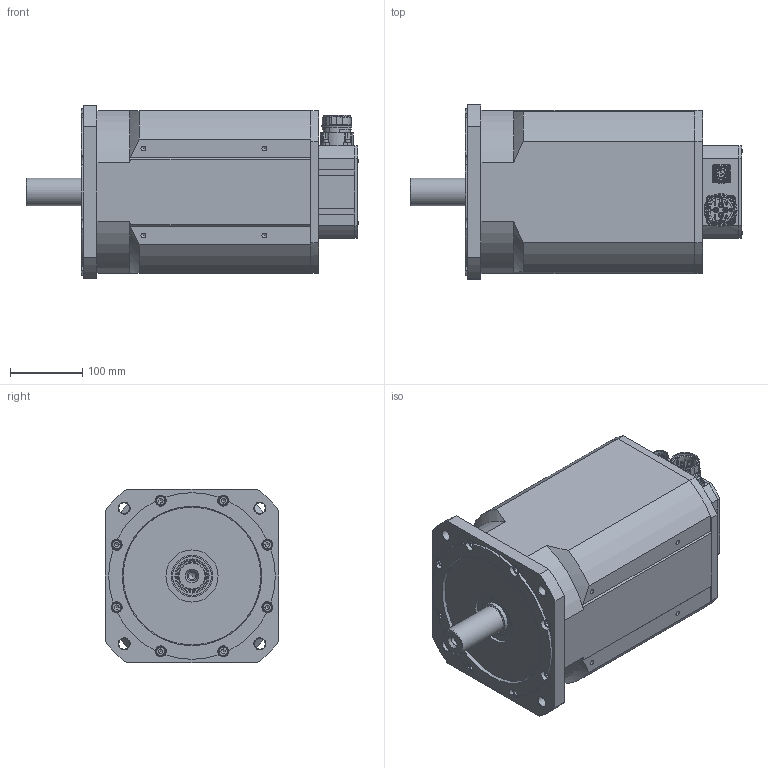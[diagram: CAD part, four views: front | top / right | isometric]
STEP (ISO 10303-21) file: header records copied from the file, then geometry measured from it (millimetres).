
FILE_DESCRIPTION(/* description */ (''),/* implementation_level */ '2;1');
FILE_NAME(/* name */ 'C:\PDF_output\T8000 00 Z_0680_8P_12P.stp',/* time_stamp */ '2024-04-19T11:36:19+02:00',/* author */ ('oslejsek'),/* organization */ (''),/* preprocessor_version */ 'ST-DEVELOPER v18.1',/* originating_system */ 'Autodesk Inventor 2021',/* authorisation */ '');
FILE_SCHEMA (('AUTOMOTIVE_DESIGN { 1 0 10303 214 3 1 1 }'));
Products named in the file (5): T8000 00 Z_0680_8P_12P; T8000 00 Z_0680_rear; T8000 00 Z_front_38_80; 127344; 115772
Assembly tree (4 placements, depth 2):
  T8000 00 Z_0680_8P_12P
    T8000 00 Z_0680_rear
    T8000 00 Z_front_38_80
    127344
    115772
Bounding box: 458.29 x 240 x 240 mm (x, y, z)
Volume: 15719499 mm3; surface area: 629966.9 mm2
Topology: 5 solids, 64 shells, 2611 faces, 6683 edges, 4323 vertices
Faces by surface type: plane 923, cylinder 794, cone 306, bspline 297, torus 252, sphere 39
Full cylindrical faces by diameter (mm): 1 x12, 1.18 x12, 2 x4, 2.013 x4, 2.208 x4, 2.4 x4, 2.459 x6, 2.5 x4, 2.7 x4, 3 x3, 3.2 x3, 3.242 x14, 3.545 x4, 3.6 x5, 3.95 x4, 4 x15, 4.3 x8, 4.917 x9, 5 x4, 5.7 x3, 6 x9, 6.4 x1, 6.5 x8, 6.647 x16, 7 x4, 7.5 x4, 8 x12, 8.4 x8, 8.5 x4, 9 x3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
Entity records: 95490 total; most frequent: CARTESIAN_POINT 29983, ORIENTED_EDGE 13186, DIRECTION 13131, EDGE_CURVE 6593, AXIS2_PLACEMENT_3D 5311, VERTEX_POINT 4341, EDGE_LOOP 2980, CIRCLE 2763
